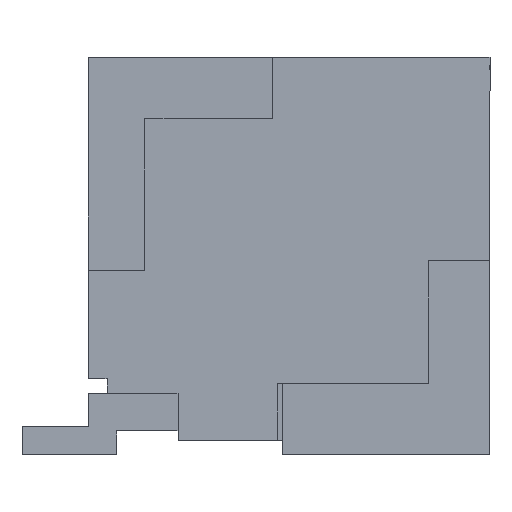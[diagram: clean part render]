
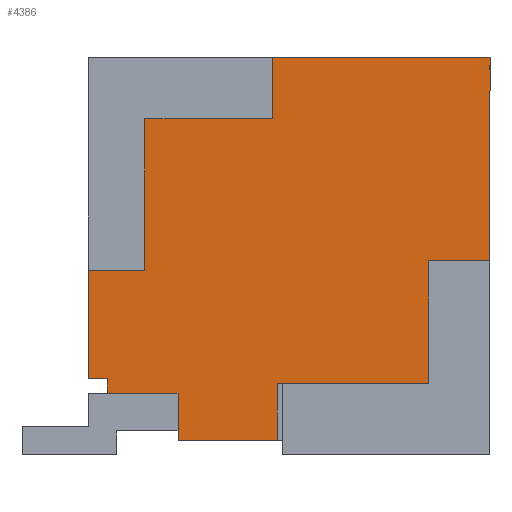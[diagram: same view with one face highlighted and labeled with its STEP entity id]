
A CAD part, left-side view. The second image highlights one B-rep face of the part: STEP entity #4386.
In plain terms, the highlighted planar face has unit normal (-1, 0, 0) as drawn and (1, 0, 0) by its records, which use the part's own axes.
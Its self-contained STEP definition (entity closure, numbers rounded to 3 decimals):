
#138 = EDGE_CURVE ( 'NONE', #3092, #3908, #3246, .T. ) ;
#195 = DIRECTION ( 'NONE',  ( 0., -1., 0. ) ) ;
#217 = LINE ( 'NONE', #2786, #3444 ) ;
#246 = DIRECTION ( 'NONE',  ( 0., -1., 0. ) ) ;
#346 = CARTESIAN_POINT ( 'NONE',  ( 0., 3.875, -0.525 ) ) ;
#353 = PLANE ( 'NONE',  #780 ) ;
#468 = CARTESIAN_POINT ( 'NONE',  ( 0., 3.875, 1.775 ) ) ;
#588 = CARTESIAN_POINT ( 'NONE',  ( 0., -0.175, 2.775 ) ) ;
#594 = LINE ( 'NONE', #1362, #3036 ) ;
#639 = CARTESIAN_POINT ( 'NONE',  ( 0., 0.425, 0.125 ) ) ;
#701 = EDGE_CURVE ( 'NONE', #3195, #3092, #3990, .T. ) ;
#780 = AXIS2_PLACEMENT_3D ( 'NONE', #3433, #5190, #4819 ) ;
#782 = EDGE_CURVE ( 'NONE', #1678, #4107, #217, .T. ) ;
#945 = CARTESIAN_POINT ( 'NONE',  ( 0., 3.225, 3.125 ) ) ;
#946 = LINE ( 'NONE', #5375, #1690 ) ;
#1030 = CARTESIAN_POINT ( 'NONE',  ( 0., 3.225, 1.775 ) ) ;
#1036 = CARTESIAN_POINT ( 'NONE',  ( 0., 0.425, 1.725 ) ) ;
#1072 = VERTEX_POINT ( 'NONE', #2347 ) ;
#1112 = ORIENTED_EDGE ( 'NONE', *, *, #782, .T. ) ;
#1119 = VERTEX_POINT ( 'NONE', #2920 ) ;
#1166 = DIRECTION ( 'NONE',  ( 0., 0., -1. ) ) ;
#1184 = CARTESIAN_POINT ( 'NONE',  ( 0., 1.725, 0.125 ) ) ;
#1272 = VERTEX_POINT ( 'NONE', #2514 ) ;
#1331 = LINE ( 'NONE', #945, #3878 ) ;
#1356 = ORIENTED_EDGE ( 'NONE', *, *, #701, .F. ) ;
#1362 = CARTESIAN_POINT ( 'NONE',  ( 0., 0.325, 3.525 ) ) ;
#1385 = VECTOR ( 'NONE', #3519, 1000. ) ;
#1410 = CARTESIAN_POINT ( 'NONE',  ( 0., 3.225, 1.775 ) ) ;
#1413 = EDGE_CURVE ( 'NONE', #4560, #2598, #1331, .T. ) ;
#1678 = VERTEX_POINT ( 'NONE', #5611 ) ;
#1690 = VECTOR ( 'NONE', #2223, 1000. ) ;
#1844 = VECTOR ( 'NONE', #4060, 1000. ) ;
#1917 = ORIENTED_EDGE ( 'NONE', *, *, #2568, .F. ) ;
#2032 = VECTOR ( 'NONE', #3577, 1000. ) ;
#2038 = ORIENTED_EDGE ( 'NONE', *, *, #3696, .F. ) ;
#2068 = CARTESIAN_POINT ( 'NONE',  ( 0., 0.325, 2.775 ) ) ;
#2090 = EDGE_CURVE ( 'NONE', #1119, #1072, #3286, .T. ) ;
#2117 = DIRECTION ( 'NONE',  ( 0., -1., 0. ) ) ;
#2151 = FACE_OUTER_BOUND ( 'NONE', #3933, .T. ) ;
#2164 = CARTESIAN_POINT ( 'NONE',  ( 0., -0.175, 1.725 ) ) ;
#2223 = DIRECTION ( 'NONE',  ( 0., 0., -1. ) ) ;
#2239 = LINE ( 'NONE', #4472, #1385 ) ;
#2254 = LINE ( 'NONE', #5347, #4005 ) ;
#2286 = LINE ( 'NONE', #2315, #1844 ) ;
#2300 = CARTESIAN_POINT ( 'NONE',  ( 0., 0.475, 3.725 ) ) ;
#2315 = CARTESIAN_POINT ( 'NONE',  ( 0., 0.425, 0.125 ) ) ;
#2347 = CARTESIAN_POINT ( 'NONE',  ( 0., 1.725, 0.125 ) ) ;
#2350 = LINE ( 'NONE', #2776, #4371 ) ;
#2404 = ORIENTED_EDGE ( 'NONE', *, *, #3128, .F. ) ;
#2514 = CARTESIAN_POINT ( 'NONE',  ( 0., 0.475, 3.525 ) ) ;
#2542 = LINE ( 'NONE', #346, #3947 ) ;
#2568 = EDGE_CURVE ( 'NONE', #1272, #4107, #2239, .T. ) ;
#2598 = VERTEX_POINT ( 'NONE', #4876 ) ;
#2704 = EDGE_CURVE ( 'NONE', #1678, #4560, #946, .T. ) ;
#2741 = VECTOR ( 'NONE', #4582, 1000. ) ;
#2776 = CARTESIAN_POINT ( 'NONE',  ( 0., -0.175, 3.725 ) ) ;
#2786 = CARTESIAN_POINT ( 'NONE',  ( 0., 3.875, 3.725 ) ) ;
#2872 = VERTEX_POINT ( 'NONE', #2164 ) ;
#2892 = CARTESIAN_POINT ( 'NONE',  ( 0., 3.875, -0.525 ) ) ;
#2920 = CARTESIAN_POINT ( 'NONE',  ( 0., 1.725, -0.525 ) ) ;
#3036 = VECTOR ( 'NONE', #5405, 1000. ) ;
#3092 = VERTEX_POINT ( 'NONE', #3913 ) ;
#3114 = CARTESIAN_POINT ( 'NONE',  ( 0., 0.325, 2.775 ) ) ;
#3128 = EDGE_CURVE ( 'NONE', #4307, #5597, #2286, .T. ) ;
#3136 = CARTESIAN_POINT ( 'NONE',  ( 0., 0.325, 3.525 ) ) ;
#3168 = DIRECTION ( 'NONE',  ( 0., -1., 0. ) ) ;
#3183 = EDGE_CURVE ( 'NONE', #5289, #3655, #4546, .T. ) ;
#3195 = VERTEX_POINT ( 'NONE', #1030 ) ;
#3210 = EDGE_CURVE ( 'NONE', #3655, #1272, #594, .T. ) ;
#3242 = ORIENTED_EDGE ( 'NONE', *, *, #2704, .F. ) ;
#3246 = LINE ( 'NONE', #4671, #5364 ) ;
#3286 = LINE ( 'NONE', #4104, #3350 ) ;
#3288 = EDGE_CURVE ( 'NONE', #1072, #4307, #5528, .T. ) ;
#3308 = CARTESIAN_POINT ( 'NONE',  ( 0., 1.625, 3.125 ) ) ;
#3309 = VECTOR ( 'NONE', #195, 1000. ) ;
#3320 = ORIENTED_EDGE ( 'NONE', *, *, #3288, .F. ) ;
#3350 = VECTOR ( 'NONE', #5517, 1000. ) ;
#3433 = CARTESIAN_POINT ( 'NONE',  ( 0., 3.875, 3.725 ) ) ;
#3444 = VECTOR ( 'NONE', #246, 1000. ) ;
#3519 = DIRECTION ( 'NONE',  ( 0., 0., 1. ) ) ;
#3557 = LINE ( 'NONE', #1410, #4557 ) ;
#3577 = DIRECTION ( 'NONE',  ( 0., 1., 0. ) ) ;
#3586 = ORIENTED_EDGE ( 'NONE', *, *, #3210, .F. ) ;
#3635 = VERTEX_POINT ( 'NONE', #4106 ) ;
#3643 = DIRECTION ( 'NONE',  ( 0., 1., 0. ) ) ;
#3655 = VERTEX_POINT ( 'NONE', #3136 ) ;
#3696 = EDGE_CURVE ( 'NONE', #3635, #5289, #4569, .T. ) ;
#3878 = VECTOR ( 'NONE', #3643, 1000. ) ;
#3908 = VERTEX_POINT ( 'NONE', #2892 ) ;
#3913 = CARTESIAN_POINT ( 'NONE',  ( 0., 3.875, 1.775 ) ) ;
#3933 = EDGE_LOOP ( 'NONE', ( #4719, #3985, #2404, #3320, #4120, #5423, #4706, #1356, #5216, #5460, #3242, #1112, #1917, #3586, #4222, #2038 ) ) ;
#3947 = VECTOR ( 'NONE', #2117, 1000. ) ;
#3985 = ORIENTED_EDGE ( 'NONE', *, *, #5691, .F. ) ;
#3990 = LINE ( 'NONE', #468, #2032 ) ;
#4005 = VECTOR ( 'NONE', #3168, 1000. ) ;
#4060 = DIRECTION ( 'NONE',  ( 0., 0., 1. ) ) ;
#4104 = CARTESIAN_POINT ( 'NONE',  ( 0., 1.725, -0.525 ) ) ;
#4106 = CARTESIAN_POINT ( 'NONE',  ( 0., -0.175, 2.775 ) ) ;
#4107 = VERTEX_POINT ( 'NONE', #2300 ) ;
#4120 = ORIENTED_EDGE ( 'NONE', *, *, #2090, .F. ) ;
#4222 = ORIENTED_EDGE ( 'NONE', *, *, #3183, .F. ) ;
#4307 = VERTEX_POINT ( 'NONE', #639 ) ;
#4371 = VECTOR ( 'NONE', #4583, 1000. ) ;
#4386 = ADVANCED_FACE ( 'NONE', ( #2151 ), #353, .F. ) ;
#4472 = CARTESIAN_POINT ( 'NONE',  ( 0., 0.475, 3.525 ) ) ;
#4546 = LINE ( 'NONE', #3114, #5539 ) ;
#4557 = VECTOR ( 'NONE', #5317, 1000. ) ;
#4560 = VERTEX_POINT ( 'NONE', #3308 ) ;
#4569 = LINE ( 'NONE', #588, #2741 ) ;
#4582 = DIRECTION ( 'NONE',  ( 0., 1., 0. ) ) ;
#4583 = DIRECTION ( 'NONE',  ( 0., 0., -1. ) ) ;
#4671 = CARTESIAN_POINT ( 'NONE',  ( 0., 3.875, 3.725 ) ) ;
#4706 = ORIENTED_EDGE ( 'NONE', *, *, #138, .F. ) ;
#4719 = ORIENTED_EDGE ( 'NONE', *, *, #5519, .T. ) ;
#4819 = DIRECTION ( 'NONE',  ( 0., 0., 1. ) ) ;
#4823 = EDGE_CURVE ( 'NONE', #3908, #1119, #2542, .T. ) ;
#4876 = CARTESIAN_POINT ( 'NONE',  ( 0., 3.225, 3.125 ) ) ;
#4955 = DIRECTION ( 'NONE',  ( 0., 0., 1. ) ) ;
#5190 = DIRECTION ( 'NONE',  ( -1., 0., 0. ) ) ;
#5216 = ORIENTED_EDGE ( 'NONE', *, *, #5599, .F. ) ;
#5289 = VERTEX_POINT ( 'NONE', #2068 ) ;
#5317 = DIRECTION ( 'NONE',  ( 0., 0., -1. ) ) ;
#5347 = CARTESIAN_POINT ( 'NONE',  ( 0., 0.425, 1.725 ) ) ;
#5364 = VECTOR ( 'NONE', #1166, 1000. ) ;
#5375 = CARTESIAN_POINT ( 'NONE',  ( 0., 1.625, 3.125 ) ) ;
#5405 = DIRECTION ( 'NONE',  ( 0., 1., 0. ) ) ;
#5423 = ORIENTED_EDGE ( 'NONE', *, *, #4823, .F. ) ;
#5460 = ORIENTED_EDGE ( 'NONE', *, *, #1413, .F. ) ;
#5517 = DIRECTION ( 'NONE',  ( 0., 0., 1. ) ) ;
#5519 = EDGE_CURVE ( 'NONE', #3635, #2872, #2350, .T. ) ;
#5528 = LINE ( 'NONE', #1184, #3309 ) ;
#5539 = VECTOR ( 'NONE', #4955, 1000. ) ;
#5597 = VERTEX_POINT ( 'NONE', #1036 ) ;
#5599 = EDGE_CURVE ( 'NONE', #2598, #3195, #3557, .T. ) ;
#5611 = CARTESIAN_POINT ( 'NONE',  ( 0., 1.625, 3.725 ) ) ;
#5691 = EDGE_CURVE ( 'NONE', #5597, #2872, #2254, .T. ) ;
